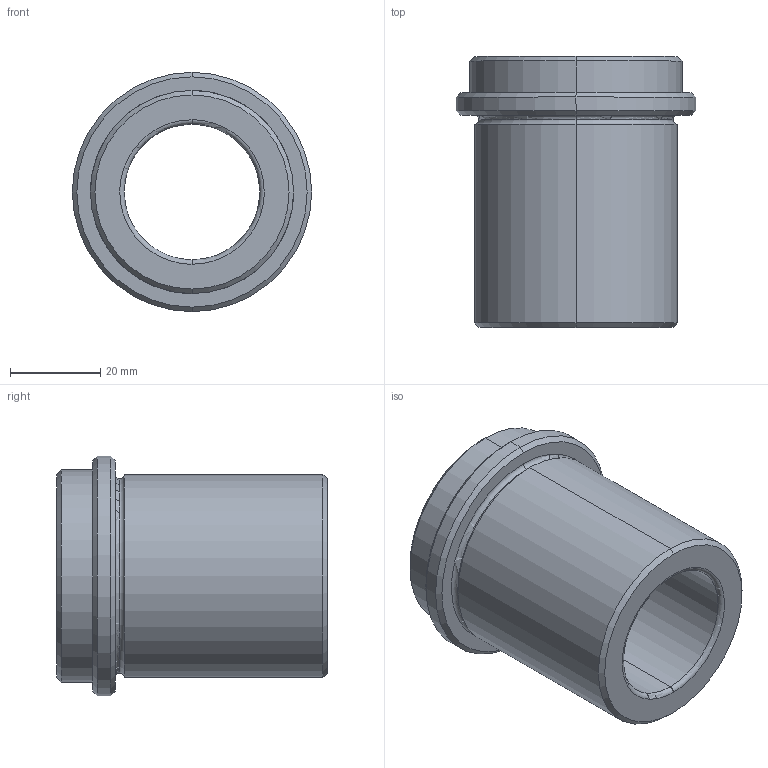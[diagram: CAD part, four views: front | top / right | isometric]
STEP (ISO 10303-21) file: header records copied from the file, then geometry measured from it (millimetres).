
FILE_DESCRIPTION(('CATIA V5 STEP Exchange'),'2;1');
FILE_NAME('C:\Users\Utente\Desktop\IO LAVORO\3D X SITO CF\X SITO\CF 439\CF 439 30x60.stp','2020-12-27T21:00:14+00:00',('none'),('none'),'CATIA Version 5 Release 20 GA (IN-10)','CATIA V5 STEP AP203','none');
FILE_SCHEMA(('CONFIG_CONTROL_DESIGN'));
Length unit declared in the file: millimetre
Products named in the file (1): CF 439 30x60
Bounding box: 53 x 60 x 53 mm (x, y, z)
Volume: 56683.5 mm3; surface area: 17011 mm2
Topology: 1 solids, 1 shells, 28 faces, 86 edges, 62 vertices
Faces by surface type: cone 8, cylinder 8, torus 8, plane 4
Entity records: 1104 total; most frequent: CARTESIAN_POINT 289, ORIENTED_EDGE 172, DIRECTION 134, AXIS2_PLACEMENT_3D 91, EDGE_CURVE 86, CIRCLE 62, VERTEX_POINT 62, EDGE_LOOP 32
